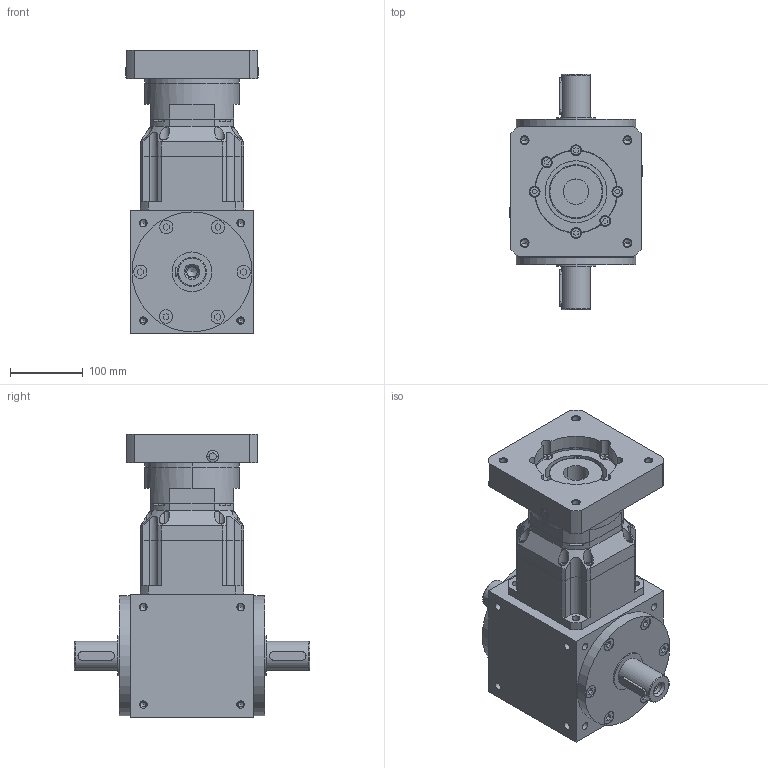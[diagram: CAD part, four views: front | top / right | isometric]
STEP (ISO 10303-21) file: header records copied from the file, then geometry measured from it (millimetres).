
FILE_DESCRIPTION(/* description */ (''),/* implementation_level */ '2;1');
FILE_NAME(/* name */ 'AT-170-FL(12-100)(35-114.3-200-M12).stp',/* time_stamp */ '2024-12-07T13:55:54+08:00',/* author */ (''),/* organization */ (''),/* preprocessor_version */ 'ST-DEVELOPER v16',/* originating_system */ 'SIEMENS PLM Software NX 10.0',/* authorisation */ '');
FILE_SCHEMA (('AP203_CONFIGURATION_CONTROLLED_3D_DESIGN_OF_MECHANICAL_PARTS_AND_ASSEMBLIES_MIM_LF { 1 0 10303 403 2 1 2}'));
Length unit declared in the file: millimetre
Products named in the file (1): Admi269892883z1z
Bounding box: 183 x 324 x 390 mm (x, y, z)
Volume: 9316558.4 mm3; surface area: 581569.2 mm2
Topology: 14 solids, 14 shells, 744 faces, 1854 edges, 1156 vertices
Faces by surface type: cylinder 312, plane 299, cone 82, bspline 29, torus 18, sphere 4
Full cylindrical faces by diameter (mm): 10.3 x19, 14 x2, 17 x2, 18.416 x12, 40 x2, 55 x2, 130 x1, 165 x2
Entity records: 25015 total; most frequent: CARTESIAN_POINT 7942, DIRECTION 3603, ORIENTED_EDGE 3400, EDGE_CURVE 1700, AXIS2_PLACEMENT_3D 1433, VERTEX_POINT 1102, EDGE_LOOP 900, ADVANCED_FACE 744
